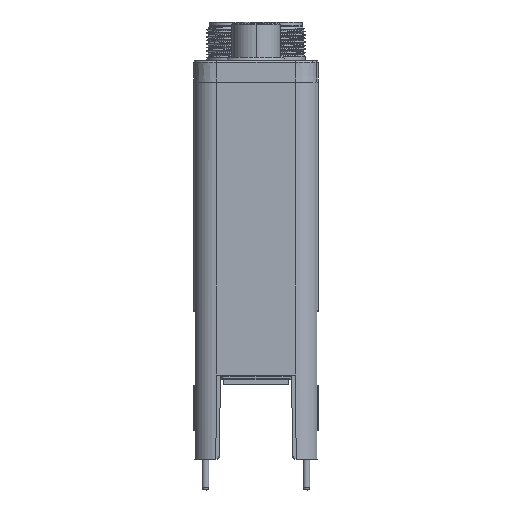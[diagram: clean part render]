
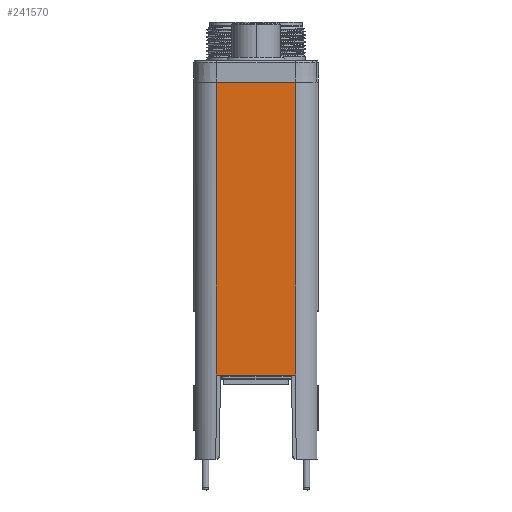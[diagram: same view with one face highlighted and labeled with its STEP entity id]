
A CAD part, front view. The second image highlights one B-rep face of the part: STEP entity #241570.
In plain terms, the highlighted planar face has unit normal (0, -1, 0).
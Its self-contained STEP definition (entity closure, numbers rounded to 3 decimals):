
#218929=DIRECTION('',(1.,0.,0.));
#218930=VECTOR('',#218929,22.4);
#218931=CARTESIAN_POINT('',(-67.112,-35.005,
17.702));
#218932=LINE('',#218931,#218930);
#219013=CARTESIAN_POINT('',(-44.712,-35.005,
69.102));
#219014=CARTESIAN_POINT('',(-44.712,-35.005,
65.547));
#219015=CARTESIAN_POINT('',(-44.712,-35.005,
58.436));
#219016=CARTESIAN_POINT('',(-44.712,-35.005,
47.769));
#219017=CARTESIAN_POINT('',(-44.712,-35.005,
40.658));
#219018=CARTESIAN_POINT('',(-44.712,-35.005,
37.102));
#219023=DIRECTION('',(0.,0.,-1.));
#219024=VECTOR('',#219023,18.1);
#219025=CARTESIAN_POINT('',(-44.712,-35.005,
37.102));
#219026=LINE('',#219025,#219024);
#219030=DIRECTION('',(0.,0.,-1.));
#219031=VECTOR('',#219030,1.3);
#219032=CARTESIAN_POINT('',(-44.712,-35.005,
19.002));
#219033=LINE('',#219032,#219031);
#219037=DIRECTION('',(0.,0.,1.));
#219038=VECTOR('',#219037,1.3);
#219039=CARTESIAN_POINT('',(-67.112,-35.005,
17.702));
#219040=LINE('',#219039,#219038);
#219044=DIRECTION('',(0.,0.,1.));
#219045=VECTOR('',#219044,18.1);
#219046=CARTESIAN_POINT('',(-67.112,-35.005,
19.002));
#219047=LINE('',#219046,#219045);
#219051=DIRECTION('',(0.,0.,1.));
#219052=VECTOR('',#219051,32.);
#219053=CARTESIAN_POINT('',(-67.112,-35.005,
37.102));
#219054=LINE('',#219053,#219052);
#219058=DIRECTION('',(0.,0.,1.));
#219059=VECTOR('',#219058,27.);
#219060=CARTESIAN_POINT('',(-67.112,-35.005,
69.102));
#219061=LINE('',#219060,#219059);
#219065=DIRECTION('',(0.,0.,1.));
#219066=VECTOR('',#219065,2.);
#219067=CARTESIAN_POINT('',(-67.112,-35.005,
96.102));
#219068=LINE('',#219067,#219066);
#219072=DIRECTION('',(0.,0.,1.));
#219073=VECTOR('',#219072,2.);
#219074=CARTESIAN_POINT('',(-67.112,-35.005,
98.102));
#219075=LINE('',#219074,#219073);
#219079=DIRECTION('',(1.,0.,0.));
#219080=VECTOR('',#219079,22.4);
#219081=CARTESIAN_POINT('',(-67.112,-35.005,
100.102));
#219082=LINE('',#219081,#219080);
#219086=DIRECTION('',(0.,0.,-1.));
#219087=VECTOR('',#219086,2.);
#219088=CARTESIAN_POINT('',(-44.712,-35.005,
100.102));
#219089=LINE('',#219088,#219087);
#219093=DIRECTION('',(0.,0.,-1.));
#219094=VECTOR('',#219093,2.);
#219095=CARTESIAN_POINT('',(-44.712,-35.005,
98.102));
#219096=LINE('',#219095,#219094);
#219100=DIRECTION('',(0.,0.,-1.));
#219101=VECTOR('',#219100,27.);
#219102=CARTESIAN_POINT('',(-44.712,-35.005,
96.102));
#219103=LINE('',#219102,#219101);
#239765=VERTEX_POINT('',#219013);
#239766=VERTEX_POINT('',#219018);
#239767=CARTESIAN_POINT('',(-44.712,-35.005,
19.002));
#239768=VERTEX_POINT('',#239767);
#239769=CARTESIAN_POINT('',(-44.712,-35.005,
17.702));
#239770=VERTEX_POINT('',#239769);
#239771=CARTESIAN_POINT('',(-67.112,-35.005,
17.702));
#239772=CARTESIAN_POINT('',(-67.112,-35.005,
19.002));
#239773=VERTEX_POINT('',#239771);
#239774=VERTEX_POINT('',#239772);
#239775=CARTESIAN_POINT('',(-67.112,-35.005,
37.102));
#239776=VERTEX_POINT('',#239775);
#239777=CARTESIAN_POINT('',(-67.112,-35.005,
69.102));
#239778=VERTEX_POINT('',#239777);
#239779=CARTESIAN_POINT('',(-67.112,-35.005,
96.102));
#239780=VERTEX_POINT('',#239779);
#239781=CARTESIAN_POINT('',(-67.112,-35.005,
98.102));
#239782=VERTEX_POINT('',#239781);
#239783=CARTESIAN_POINT('',(-67.112,-35.005,
100.102));
#239784=VERTEX_POINT('',#239783);
#239785=CARTESIAN_POINT('',(-44.712,-35.005,
100.102));
#239786=VERTEX_POINT('',#239785);
#239787=CARTESIAN_POINT('',(-44.712,-35.005,
98.102));
#239788=VERTEX_POINT('',#239787);
#239789=CARTESIAN_POINT('',(-44.712,-35.005,
96.102));
#239790=VERTEX_POINT('',#239789);
#241536=CARTESIAN_POINT('',(-55.912,-35.005,
58.902));
#241537=DIRECTION('',(0.,1.,0.));
#241538=DIRECTION('',(0.,0.,1.));
#241539=AXIS2_PLACEMENT_3D('',#241536,#241537,#241538);
#241540=PLANE('',#241539);
#241542=ORIENTED_EDGE('',*,*,#241541,.T.);
#241544=ORIENTED_EDGE('',*,*,#241543,.T.);
#241546=ORIENTED_EDGE('',*,*,#241545,.T.);
#241547=ORIENTED_EDGE('',*,*,#241511,.F.);
#241549=ORIENTED_EDGE('',*,*,#241548,.T.);
#241551=ORIENTED_EDGE('',*,*,#241550,.T.);
#241553=ORIENTED_EDGE('',*,*,#241552,.T.);
#241555=ORIENTED_EDGE('',*,*,#241554,.T.);
#241557=ORIENTED_EDGE('',*,*,#241556,.T.);
#241559=ORIENTED_EDGE('',*,*,#241558,.T.);
#241561=ORIENTED_EDGE('',*,*,#241560,.T.);
#241563=ORIENTED_EDGE('',*,*,#241562,.T.);
#241565=ORIENTED_EDGE('',*,*,#241564,.T.);
#241567=ORIENTED_EDGE('',*,*,#241566,.T.);
#241568=EDGE_LOOP('',(#241542,#241544,#241546,#241547,#241549,#241551,#241553,
#241555,#241557,#241559,#241561,#241563,#241565,#241567));
#241569=FACE_OUTER_BOUND('',#241568,.F.);
#241570=ADVANCED_FACE('',(#241569),#241540,.F.);
#219019=B_SPLINE_CURVE_WITH_KNOTS('',3,(#219013,#219014,#219015,#219016,#219017,
#219018),.UNSPECIFIED.,.F.,.F.,(4,1,1,4),(0.,0.333,
0.667,1.),.UNSPECIFIED.);
#241511=EDGE_CURVE('',#239773,#239770,#218932,.T.);
#241541=EDGE_CURVE('',#239765,#239766,#219019,.T.);
#241543=EDGE_CURVE('',#239766,#239768,#219026,.T.);
#241545=EDGE_CURVE('',#239768,#239770,#219033,.T.);
#241548=EDGE_CURVE('',#239773,#239774,#219040,.T.);
#241550=EDGE_CURVE('',#239774,#239776,#219047,.T.);
#241552=EDGE_CURVE('',#239776,#239778,#219054,.T.);
#241554=EDGE_CURVE('',#239778,#239780,#219061,.T.);
#241556=EDGE_CURVE('',#239780,#239782,#219068,.T.);
#241558=EDGE_CURVE('',#239782,#239784,#219075,.T.);
#241560=EDGE_CURVE('',#239784,#239786,#219082,.T.);
#241562=EDGE_CURVE('',#239786,#239788,#219089,.T.);
#241564=EDGE_CURVE('',#239788,#239790,#219096,.T.);
#241566=EDGE_CURVE('',#239790,#239765,#219103,.T.);
